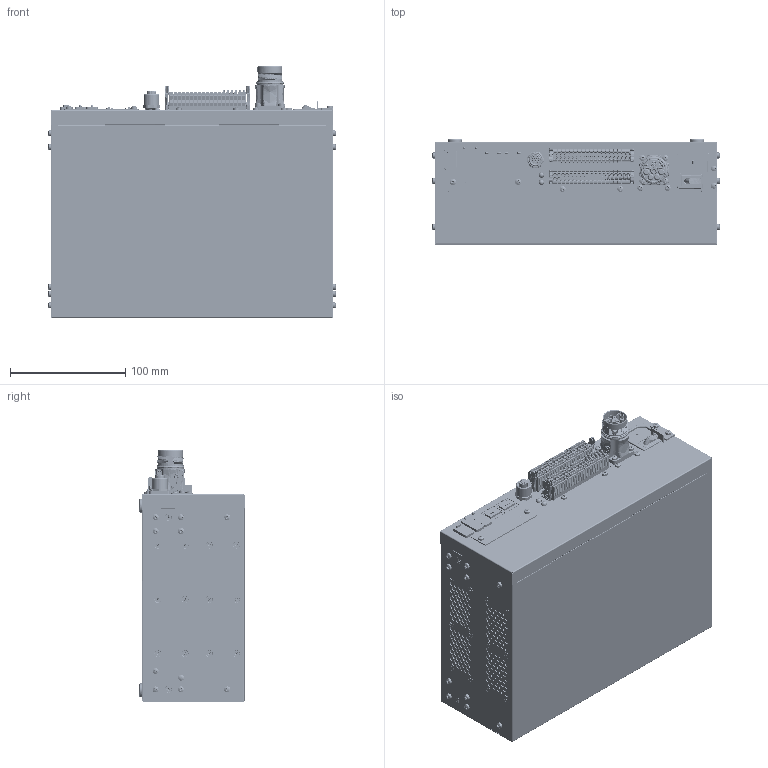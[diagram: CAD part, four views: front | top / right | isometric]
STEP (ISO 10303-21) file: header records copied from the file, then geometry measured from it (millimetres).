
FILE_DESCRIPTION (( 'STEP AP203' ), '1' );
FILE_NAME ('5KWÍâ·¢Ä£ÐÍ-20241025.STEP', '2024-10-25T00:54:04', ( 'hello' ), ( '' ), 'SwSTEP 2.0', 'SolidWorks 2018', '' );
FILE_SCHEMA (( 'CONFIG_CONTROL_DESIGN' ));
Products named in the file (2): 5KW俋楷耀倰-20241025
Bounding box: 249.74 x 91 x 218.12 mm (x, y, z)
Surface area: 232881.8 mm2 (no closed solid volume)
Topology: 0 solids, 795 shells, 25640 faces, 69343 edges, 44046 vertices
Faces by surface type: plane 13970, cylinder 6202, bspline 3337, cone 2125, torus 4, sphere 2
Entity records: 1008678 total; most frequent: CARTESIAN_POINT 438680, ORIENTED_EDGE 129594, DIRECTION 95379, EDGE_CURVE 68137, VERTEX_POINT 44040, LINE 33995, VECTOR 33995, AXIS2_PLACEMENT_3D 30692
